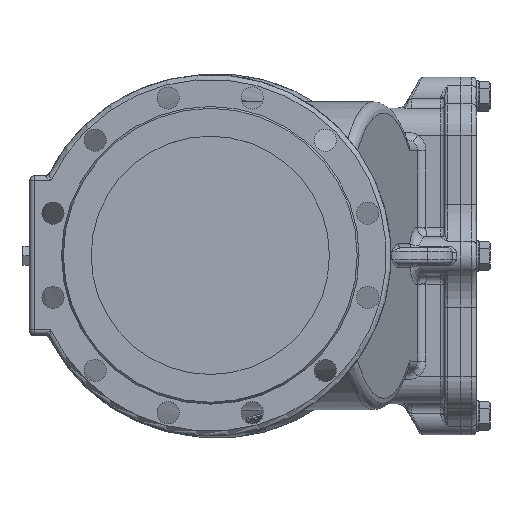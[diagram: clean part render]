
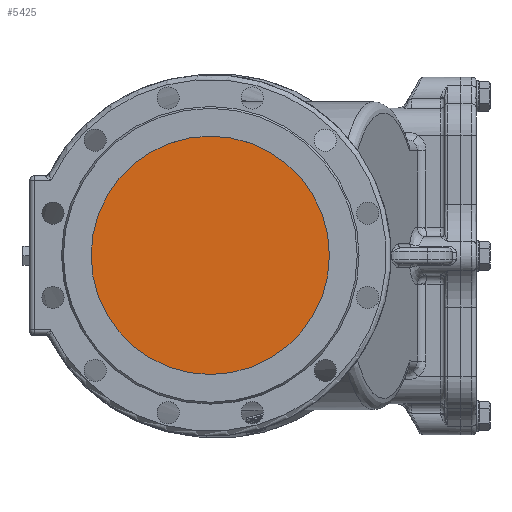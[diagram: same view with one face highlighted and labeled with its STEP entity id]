
A CAD part, top view. The second image highlights one B-rep face of the part: STEP entity #5425.
In plain terms, the highlighted planar face has unit normal (0, 0, 1).
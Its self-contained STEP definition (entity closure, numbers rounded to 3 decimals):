
#5425=ADVANCED_FACE('',(#14677),#14679,.F.);
#14677=FACE_BOUND('',#14678,.T.);
#14678=EDGE_LOOP('',(#19164));
#14679=PLANE('',#14680);
#14680=AXIS2_PLACEMENT_3D('',#14681,#14682,#14683);
#14681=CARTESIAN_POINT('',(0.,0.,690.));
#14682=DIRECTION('',(0.,0.,-1.));
#14683=DIRECTION('',(-1.,0.,0.));
#19164=ORIENTED_EDGE('',*,*,#22009,.F.);
#22009=EDGE_CURVE('',#24938,#24938,#24939,.T.);
#24938=VERTEX_POINT('',#58465);
#24939=CIRCLE('',#58466,150.);
#58465=CARTESIAN_POINT('',(-150.,0.,690.));
#58466=AXIS2_PLACEMENT_3D('',#58467,#58468,#58469);
#58467=CARTESIAN_POINT('',(0.,0.,690.));
#58468=DIRECTION('',(0.,0.,-1.));
#58469=DIRECTION('',(-1.,0.,0.));
